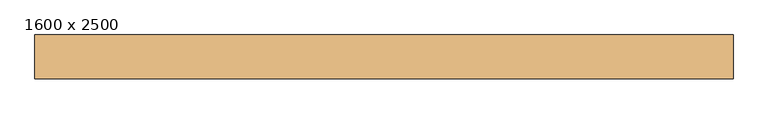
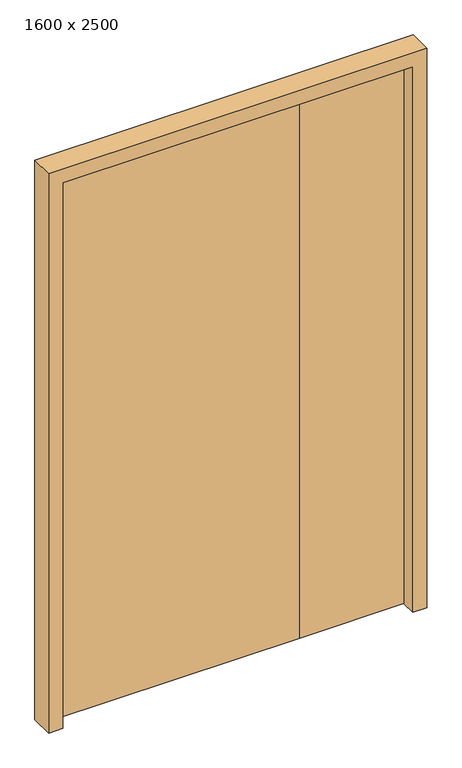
"""IFC4 building model written with IfcOpenShell, lengths in millimetres: door geometry, Flush Asymmetrical : 1600 x 2500."""

import ifcopenshell
import ifcopenshell.guid

model = None  # the IFC model being written
_history = None  # IfcOwnerHistory: only IFC2X3 demands one
_inside = {}  # id of a spatial element -> (the spatial element, [elements in it])
_under = {}  # id of a project, library or spatial element -> (it, [spatial elements below it])
_declared = {}  # id of a project -> (the project, [libraries it declares])
_typed = {}  # id of a type object -> (the type object, [elements of that type])
_made_of = {}  # id of a material, layer set ... -> (it, [elements and type objects made of it])


def new_model(schema):
    """Start an empty IFC model of exactly this schema.

    Asked for "IFC4X3", IfcOpenShell would pick the latest addendum, in which some entities
    have other attributes; the version numbers below select the first issue.
    IFC2X3 requires an IfcOwnerHistory on every rooted entity: one is made here for all.
    """
    global model, _history
    if schema == "IFC4X3":
        model = ifcopenshell.file(schema_version=(4, 3, 0, 0))
    else:
        model = ifcopenshell.file(schema=schema)
    _inside.clear()
    _under.clear()
    _declared.clear()
    _typed.clear()
    _made_of.clear()
    _history = None
    if model.schema == "IFC2X3":
        org = make("IfcOrganization", Name="unknown")
        user = make(
            "IfcPersonAndOrganization",
            ThePerson=make("IfcPerson", FamilyName="unknown"),
            TheOrganization=org,
        )
        app = make(
            "IfcApplication",
            ApplicationDeveloper=org,
            Version="unknown",
            ApplicationFullName="unknown",
            ApplicationIdentifier="unknown",
        )
        _history = make(
            "IfcOwnerHistory",
            OwningUser=user,
            OwningApplication=app,
            ChangeAction="ADDED",
            CreationDate=0,
        )
    return model


def make(cls, **values):
    """One entity of the class cls with the attributes given. An attribute that is None is left unset."""
    return model.create_entity(
        cls, **{name: value for name, value in values.items() if value is not None}
    )


def rooted(cls, **values):
    """An entity with a GlobalId (a new one), such as an element, a storey or a relation."""
    return make(cls, GlobalId=ifcopenshell.guid.new(), OwnerHistory=_history, **values)


def si_unit(unit_type, name, prefix=None):
    """IfcSIUnit, for example si_unit("LENGTHUNIT", "METRE", prefix="MILLI")."""
    return make("IfcSIUnit", UnitType=unit_type, Prefix=prefix, Name=name)


def assignment(units):
    """IfcUnitAssignment: the units of a project."""
    return None if units is None else make("IfcUnitAssignment", Units=units)


def point(xyz):
    """IfcCartesianPoint."""
    return None if xyz is None else make("IfcCartesianPoint", Coordinates=xyz)


def direction(xyz):
    """IfcDirection."""
    return None if xyz is None else make("IfcDirection", DirectionRatios=xyz)


def frame(location, z_axis=None, x_axis=None):
    """IfcAxis2Placement3D, a coordinate frame: its origin and axes. An axis left out is left unset."""
    return make(
        "IfcAxis2Placement3D",
        Location=point(location),
        Axis=direction(z_axis),
        RefDirection=direction(x_axis),
    )


def origin():
    """The frame at (0, 0, 0) with its axes left unset."""
    return frame((0.0, 0.0, 0.0))


def origin_with_axes():
    """The frame at (0, 0, 0) with the z axis (0, 0, 1) and the x axis (1, 0, 0) written out."""
    return frame((0.0, 0.0, 0.0), z_axis=(0.0, 0.0, 1.0), x_axis=(1.0, 0.0, 0.0))


def place(relative_to, where):
    """IfcLocalPlacement: puts the frame where relative to a parent placement (None: the world)."""
    return make(
        "IfcLocalPlacement", PlacementRelTo=relative_to, RelativePlacement=where
    )


def context(
    kind, dimensions, precision=None, world=None, true_north=None, identifier=None
):
    """IfcGeometricRepresentationContext, for example the 3D "Model" context."""
    return make(
        "IfcGeometricRepresentationContext",
        ContextIdentifier=identifier,
        ContextType=kind,
        CoordinateSpaceDimension=dimensions,
        Precision=precision,
        WorldCoordinateSystem=world,
        TrueNorth=true_north,
    )


def project(units=None, contexts=None):
    """IfcProject with its units and contexts."""
    return rooted(
        "IfcProject",
        Name="project",
        RepresentationContexts=contexts,
        UnitsInContext=assignment(units),
    )


def spatial(cls, under=None, at=None, **own):
    """A site, building, storey or space (cls), placed at a placement, below another one or the project."""
    s = rooted(cls, ObjectPlacement=at, **own)
    if under is not None:
        _under.setdefault(under.id(), (under, []))[1].append(s)
    return s


def polyline(points):
    """IfcPolyline through the points."""
    return make("IfcPolyline", Points=[point(p) for p in points])


def outline(outer, holes=None, kind="AREA"):
    """IfcArbitraryClosedProfileDef: a profile drawn as a closed curve; with holes, ...WithVoids."""
    if holes is None:
        return make("IfcArbitraryClosedProfileDef", ProfileType=kind, OuterCurve=outer)
    return make(
        "IfcArbitraryProfileDefWithVoids",
        ProfileType=kind,
        OuterCurve=outer,
        InnerCurves=holes,
    )


def extrude(swept, where, along, depth):
    """IfcExtrudedAreaSolid: the profile swept, set in the frame where, extruded along a direction by depth."""
    return make(
        "IfcExtrudedAreaSolid",
        SweptArea=swept,
        Position=where,
        ExtrudedDirection=direction(along),
        Depth=depth,
    )


def faces_of(points, faces, orient=None, outer=None):
    """IfcFace entities. A face is a list of loops; a loop is a list of indices into points, from 0.

    orient and outer hold one flag for each loop. By default every Orientation is true, the
    first loop of a face is its IfcFaceOuterBound and the others are IfcFaceBound.
    """
    made = []
    for i, loops in enumerate(faces):
        bounds = []
        for j, loop in enumerate(loops):
            is_outer = j == 0 if outer is None else outer[i][j]
            bounds.append(
                make(
                    "IfcFaceOuterBound" if is_outer else "IfcFaceBound",
                    Bound=make("IfcPolyLoop", Polygon=[points[k] for k in loop]),
                    Orientation=True if orient is None else orient[i][j],
                )
            )
        made.append(make("IfcFace", Bounds=bounds))
    return made


def faceted_brep(points, faces, orient=None, outer=None, voids=None):
    """IfcFacetedBrep: a solid bounded by flat faces; with voids (closed shells), ...WithVoids."""
    shared = [point(p) for p in points]
    hull = make("IfcClosedShell", CfsFaces=faces_of(shared, faces, orient, outer))
    if voids is None:
        return make("IfcFacetedBrep", Outer=hull)
    return make(
        "IfcFacetedBrepWithVoids",
        Outer=hull,
        Voids=[
            make(cls, CfsFaces=faces_of(shared, fs, o, b)) for cls, fs, o, b in voids
        ],
    )


def shape(context_of_items, identifier, shape_type, items):
    """IfcShapeRepresentation: the items that make up one representation, for example the "Body"."""
    return make(
        "IfcShapeRepresentation",
        ContextOfItems=context_of_items,
        RepresentationIdentifier=identifier,
        RepresentationType=shape_type,
        Items=items,
    )


def source(mapping_origin, context_of_items, identifier, shape_type, items):
    """IfcRepresentationMap: a shape defined once, which mapped items show again and again."""
    return make(
        "IfcRepresentationMap",
        MappingOrigin=mapping_origin,
        MappedRepresentation=shape(context_of_items, identifier, shape_type, items),
    )


def transform(
    local_origin,
    x_axis=None,
    y_axis=None,
    z_axis=None,
    scale=None,
    scale2=None,
    scale3=None,
    uniform=True,
):
    """IfcCartesianTransformationOperator3D, or its non-uniform kind. x_axis, y_axis, z_axis: its Axis1, 2, 3."""
    if uniform:
        return make(
            "IfcCartesianTransformationOperator3D",
            Axis1=direction(x_axis),
            Axis2=direction(y_axis),
            LocalOrigin=point(local_origin),
            Scale=scale,
            Axis3=direction(z_axis),
        )
    return make(
        "IfcCartesianTransformationOperator3DnonUniform",
        Axis1=direction(x_axis),
        Axis2=direction(y_axis),
        LocalOrigin=point(local_origin),
        Scale=scale,
        Axis3=direction(z_axis),
        Scale2=scale2,
        Scale3=scale3,
    )


def mapped(mapping_source, mapping_target):
    """IfcMappedItem: shows the shape of a source again, moved by a transform."""
    return make(
        "IfcMappedItem", MappingSource=mapping_source, MappingTarget=mapping_target
    )


def made_of(thing, what):
    """Note that an element or type object is made of a material, layer set ...; save() writes the relation."""
    if what is not None:
        _made_of.setdefault(what.id(), (what, []))[1].append(thing)
    return thing


def element(
    cls,
    number,
    at=None,
    inside=None,
    cuts=None,
    type_object=None,
    material=None,
    context=None,
    identifier="Body",
    shape_type=None,
    held_by="IfcProductDefinitionShape",
    body=None,
    shapes=None,
    **own,
):
    """One element of the class cls, such as IfcWall. Its Tag is "e" and its number.

    at: its placement. inside: the storey or other place that contains it. cuts: it is an
    opening in that element (IfcRelVoidsElement). A single representation is given by context,
    identifier, shape_type and body (its items); several are given by shapes. held_by: the class
    of the entity that holds the representations. save() writes the other relations.
    """
    e = rooted(cls, Tag="e%d" % number, ObjectPlacement=at, **own)
    if body is not None:
        shapes = [shape(context, identifier, shape_type, body)]
    if shapes is not None:
        e.Representation = make(held_by, Representations=shapes)
    if inside is not None:
        _inside.setdefault(inside.id(), (inside, []))[1].append(e)
    if cuts is not None:
        rooted(
            "IfcRelVoidsElement", RelatingBuildingElement=cuts, RelatedOpeningElement=e
        )
    if type_object is not None:
        _typed.setdefault(type_object.id(), (type_object, []))[1].append(e)
    return made_of(e, material)


def aggregate(whole, parts):
    """IfcRelAggregates: a whole, such as a stair, and the parts it consists of."""
    return rooted("IfcRelAggregates", RelatingObject=whole, RelatedObjects=parts)


def save(model, path):
    """Write the relations noted so far, then the file.

    IfcRelAggregates (storeys below a building ...), IfcRelContainedInSpatialStructure (elements
    in a storey), IfcRelDefinesByType, IfcRelAssociatesMaterial and IfcRelDeclares: one each for
    every whole, place, type object, material and project.
    """
    for whole, parts in _under.values():
        aggregate(whole, parts)
    for where, things in _inside.values():
        rooted(
            "IfcRelContainedInSpatialStructure",
            RelatedElements=things,
            RelatingStructure=where,
        )
    for kind, things in _typed.values():
        rooted("IfcRelDefinesByType", RelatedObjects=things, RelatingType=kind)
    for what, things in _made_of.values():
        rooted("IfcRelAssociatesMaterial", RelatedObjects=things, RelatingMaterial=what)
    for by, libraries in _declared.values():
        rooted("IfcRelDeclares", RelatingContext=by, RelatedDefinitions=libraries)
    model.write(path)


def door_1600_x_2500_8ab3e31f(model_context):
    return source(origin(), model_context, "Body", "SolidModel", [
        extrude(outline(polyline([(755.0, 15.0), (300.0, 15.0), (300.0, 50.0), (755.0, 50.0), (755.0, 15.0)])), origin_with_axes(), (0.0, 0.0, 1.0), 2455.0),
        extrude(outline(polyline([(300.0, 15.0), (-755.0, 15.0), (-755.0, 50.0), (300.0, 50.0), (300.0, 15.0)])), origin_with_axes(), (0.0, 0.0, 1.0), 2455.0),
        faceted_brep([(800.0, 50.0, 0.0), (800.0, -50.0, 0.0), (740.0, -50.0, 0.0), (740.0, 15.0, 0.0), (755.0, 15.0, 0.0), (755.0, 50.0, 0.0), (800.0, 50.0, 2500.0), (800.0, -50.0, 2500.0), (-800.0, -50.0, 2500.0), (-800.0, -50.0, 0.0), (-740.0, -50.0, 0.0), (-740.0, -50.0, 2440.0), (740.0, -50.0, 2440.0), (740.0, 15.0, 2440.0), (-740.0, 15.0, 2440.0), (-740.0, 15.0, 0.0), (-755.0, 15.0, 0.0), (-755.0, 15.0, 2455.0), (755.0, 15.0, 2455.0), (755.0, 50.0, 2455.0), (-755.0, 50.0, 2455.0), (-755.0, 50.0, 0.0), (-800.0, 50.0, 0.0), (-800.0, 50.0, 2500.0)], [[[0, 1, 2, 3, 4, 5]], [[1, 0, 6, 7]], [[2, 1, 7, 8, 9, 10, 11, 12]], [[3, 2, 12, 13]], [[4, 3, 13, 14, 15, 16, 17, 18]], [[5, 4, 18, 19]], [[0, 5, 19, 20, 21, 22, 23, 6]], [[7, 6, 23, 8]], [[13, 12, 11, 14]], [[19, 18, 17, 20]], [[22, 21, 16, 15, 10, 9]], [[8, 23, 22, 9]], [[14, 11, 10, 15]], [[20, 17, 16, 21]]]),
    ])


if __name__ == "__main__":
    model = new_model("IFC4")
    model_context = context("Model", 3, world=origin())
    ifc_project = project(units=[si_unit("LENGTHUNIT", "METRE", prefix="MILLI")], contexts=[model_context])
    site = spatial("IfcSite", under=ifc_project)
    building = spatial("IfcBuilding", under=site)
    placement = place(None, origin())
    door_1600_x_2500_shape = door_1600_x_2500_8ab3e31f(model_context)
    element("IfcDoor", 1, ObjectType="Flush Asymmetrical : 1600 x 2500", at=placement, inside=building, context=model_context, shape_type="MappedRepresentation", body=[
        mapped(door_1600_x_2500_shape, transform((0.0, 0.0, 0.0), x_axis=(1.0, 0.0, 0.0), y_axis=(0.0, 1.0, 0.0), z_axis=(0.0, 0.0, 1.0))),
    ])
    save(model, "model.ifc")
